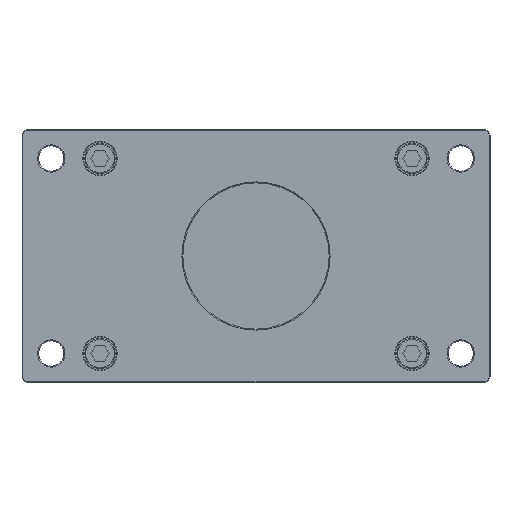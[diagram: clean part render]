
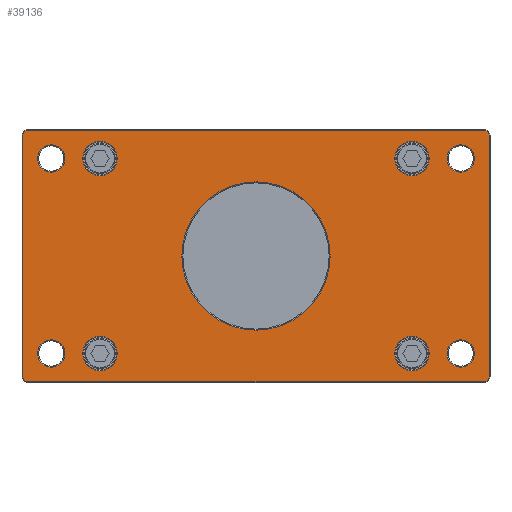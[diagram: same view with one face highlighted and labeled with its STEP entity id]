
A CAD part, front view. The second image highlights one B-rep face of the part: STEP entity #39136.
In plain terms, the highlighted planar face has unit normal (0, -1, 0) as drawn and (0, 1, 0) by its records, which use the part's own axes.
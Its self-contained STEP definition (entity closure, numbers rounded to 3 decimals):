
#37588=CARTESIAN_POINT('',(0.,9.,0.));
#37589=DIRECTION('',(0.,-1.,0.));
#37590=DIRECTION('',(1.,0.,0.));
#37591=AXIS2_PLACEMENT_3D('',#37588,#37589,#37590);
#37593=CARTESIAN_POINT('',(0.,9.,0.));
#37594=DIRECTION('',(0.,-1.,0.));
#37595=DIRECTION('',(-1.,0.,0.));
#37596=AXIS2_PLACEMENT_3D('',#37593,#37594,#37595);
#37598=CARTESIAN_POINT('',(-105.,9.,-50.));
#37599=DIRECTION('',(0.,-1.,0.));
#37600=DIRECTION('',(-1.,0.,0.));
#37601=AXIS2_PLACEMENT_3D('',#37598,#37599,#37600);
#37603=CARTESIAN_POINT('',(-105.,9.,-50.));
#37604=DIRECTION('',(0.,-1.,0.));
#37605=DIRECTION('',(1.,0.,0.));
#37606=AXIS2_PLACEMENT_3D('',#37603,#37604,#37605);
#37608=CARTESIAN_POINT('',(105.,9.,-50.));
#37609=DIRECTION('',(0.,-1.,0.));
#37610=DIRECTION('',(-1.,0.,0.));
#37611=AXIS2_PLACEMENT_3D('',#37608,#37609,#37610);
#37613=CARTESIAN_POINT('',(105.,9.,-50.));
#37614=DIRECTION('',(0.,-1.,0.));
#37615=DIRECTION('',(1.,0.,0.));
#37616=AXIS2_PLACEMENT_3D('',#37613,#37614,#37615);
#37618=CARTESIAN_POINT('',(105.,9.,50.));
#37619=DIRECTION('',(0.,-1.,0.));
#37620=DIRECTION('',(1.,0.,0.));
#37621=AXIS2_PLACEMENT_3D('',#37618,#37619,#37620);
#37623=CARTESIAN_POINT('',(105.,9.,50.));
#37624=DIRECTION('',(0.,-1.,0.));
#37625=DIRECTION('',(-1.,0.,0.));
#37626=AXIS2_PLACEMENT_3D('',#37623,#37624,#37625);
#37628=CARTESIAN_POINT('',(-105.,9.,50.));
#37629=DIRECTION('',(0.,-1.,0.));
#37630=DIRECTION('',(-1.,0.,0.));
#37631=AXIS2_PLACEMENT_3D('',#37628,#37629,#37630);
#37633=CARTESIAN_POINT('',(-105.,9.,50.));
#37634=DIRECTION('',(0.,-1.,0.));
#37635=DIRECTION('',(1.,0.,0.));
#37636=AXIS2_PLACEMENT_3D('',#37633,#37634,#37635);
#37638=CARTESIAN_POINT('',(-117.,9.,-62.));
#37639=DIRECTION('',(0.,1.,0.));
#37640=DIRECTION('',(0.,0.,-1.));
#37641=AXIS2_PLACEMENT_3D('',#37638,#37639,#37640);
#37643=DIRECTION('',(-1.,0.,0.));
#37644=VECTOR('',#37643,234.);
#37645=CARTESIAN_POINT('',(117.,9.,
-64.5));
#37646=LINE('',#37645,#37644);
#37647=CARTESIAN_POINT('',(117.,9.,-62.));
#37648=DIRECTION('',(0.,1.,0.));
#37649=DIRECTION('',(1.,0.,0.));
#37650=AXIS2_PLACEMENT_3D('',#37647,#37648,#37649);
#37652=DIRECTION('',(0.,0.,-1.));
#37653=VECTOR('',#37652,124.);
#37654=CARTESIAN_POINT('',(119.5,9.,62.));
#37655=LINE('',#37654,#37653);
#37656=CARTESIAN_POINT('',(117.,9.,62.));
#37657=DIRECTION('',(0.,1.,0.));
#37658=DIRECTION('',(0.,0.,1.));
#37659=AXIS2_PLACEMENT_3D('',#37656,#37657,#37658);
#37661=DIRECTION('',(1.,0.,0.));
#37662=VECTOR('',#37661,234.);
#37663=CARTESIAN_POINT('',(-117.,9.,
64.5));
#37664=LINE('',#37663,#37662);
#37665=CARTESIAN_POINT('',(-117.,9.,62.));
#37666=DIRECTION('',(0.,1.,0.));
#37667=DIRECTION('',(-1.,0.,0.));
#37668=AXIS2_PLACEMENT_3D('',#37665,#37666,#37667);
#37670=DIRECTION('',(0.,0.,1.));
#37671=VECTOR('',#37670,124.);
#37672=CARTESIAN_POINT('',(-119.5,9.,
-62.));
#37673=LINE('',#37672,#37671);
#37674=CARTESIAN_POINT('',(80.,9.,50.));
#37675=DIRECTION('',(0.,-1.,0.));
#37676=DIRECTION('',(1.,0.,0.));
#37677=AXIS2_PLACEMENT_3D('',#37674,#37675,#37676);
#37679=CARTESIAN_POINT('',(80.,9.,50.));
#37680=DIRECTION('',(0.,-1.,0.));
#37681=DIRECTION('',(-1.,0.,0.));
#37682=AXIS2_PLACEMENT_3D('',#37679,#37680,#37681);
#37684=CARTESIAN_POINT('',(-80.,9.,50.));
#37685=DIRECTION('',(0.,-1.,0.));
#37686=DIRECTION('',(1.,0.,0.));
#37687=AXIS2_PLACEMENT_3D('',#37684,#37685,#37686);
#37689=CARTESIAN_POINT('',(-80.,9.,50.));
#37690=DIRECTION('',(0.,-1.,0.));
#37691=DIRECTION('',(-1.,0.,0.));
#37692=AXIS2_PLACEMENT_3D('',#37689,#37690,#37691);
#37694=CARTESIAN_POINT('',(80.,9.,-50.));
#37695=DIRECTION('',(0.,-1.,0.));
#37696=DIRECTION('',(1.,0.,0.));
#37697=AXIS2_PLACEMENT_3D('',#37694,#37695,#37696);
#37699=CARTESIAN_POINT('',(80.,9.,-50.));
#37700=DIRECTION('',(0.,-1.,0.));
#37701=DIRECTION('',(-1.,0.,0.));
#37702=AXIS2_PLACEMENT_3D('',#37699,#37700,#37701);
#37704=CARTESIAN_POINT('',(-80.,9.,-50.));
#37705=DIRECTION('',(0.,-1.,0.));
#37706=DIRECTION('',(1.,0.,0.));
#37707=AXIS2_PLACEMENT_3D('',#37704,#37705,#37706);
#37709=CARTESIAN_POINT('',(-80.,9.,-50.));
#37710=DIRECTION('',(0.,-1.,0.));
#37711=DIRECTION('',(-1.,0.,0.));
#37712=AXIS2_PLACEMENT_3D('',#37709,#37710,#37711);
#38620=CARTESIAN_POINT('',(38.,9.,0.));
#38621=CARTESIAN_POINT('',(-38.,9.,0.));
#38622=VERTEX_POINT('',#38620);
#38623=VERTEX_POINT('',#38621);
#38636=CARTESIAN_POINT('',(-112.,9.,-50.));
#38637=CARTESIAN_POINT('',(-98.,9.,-50.));
#38638=VERTEX_POINT('',#38636);
#38639=VERTEX_POINT('',#38637);
#38644=CARTESIAN_POINT('',(98.,9.,-50.));
#38645=CARTESIAN_POINT('',(112.,9.,-50.));
#38646=VERTEX_POINT('',#38644);
#38647=VERTEX_POINT('',#38645);
#38652=CARTESIAN_POINT('',(112.,9.,50.));
#38653=CARTESIAN_POINT('',(98.,9.,50.));
#38654=VERTEX_POINT('',#38652);
#38655=VERTEX_POINT('',#38653);
#38660=CARTESIAN_POINT('',(-112.,9.,50.));
#38661=CARTESIAN_POINT('',(-98.,9.,50.));
#38662=VERTEX_POINT('',#38660);
#38663=VERTEX_POINT('',#38661);
#38732=CARTESIAN_POINT('',(-117.,9.,-64.5));
#38733=CARTESIAN_POINT('',(-119.5,9.,-62.));
#38734=VERTEX_POINT('',#38732);
#38735=VERTEX_POINT('',#38733);
#38740=CARTESIAN_POINT('',(-119.5,9.,
62.));
#38741=VERTEX_POINT('',#38740);
#38744=CARTESIAN_POINT('',(-117.,9.,64.5));
#38745=VERTEX_POINT('',#38744);
#38748=CARTESIAN_POINT('',(117.,9.,64.5));
#38749=VERTEX_POINT('',#38748);
#38752=CARTESIAN_POINT('',(119.5,9.,62.));
#38753=VERTEX_POINT('',#38752);
#38756=CARTESIAN_POINT('',(119.5,9.,
-62.));
#38757=VERTEX_POINT('',#38756);
#38760=CARTESIAN_POINT('',(117.,9.,-64.5));
#38761=VERTEX_POINT('',#38760);
#38780=CARTESIAN_POINT('',(88.8,9.,50.));
#38781=CARTESIAN_POINT('',(71.2,9.,50.));
#38782=VERTEX_POINT('',#38780);
#38783=VERTEX_POINT('',#38781);
#38804=CARTESIAN_POINT('',(-71.2,9.,50.));
#38805=CARTESIAN_POINT('',(-88.8,9.,50.));
#38806=VERTEX_POINT('',#38804);
#38807=VERTEX_POINT('',#38805);
#38820=CARTESIAN_POINT('',(88.8,9.,-50.));
#38821=CARTESIAN_POINT('',(71.2,9.,-50.));
#38822=VERTEX_POINT('',#38820);
#38823=VERTEX_POINT('',#38821);
#38828=CARTESIAN_POINT('',(-71.2,9.,-50.));
#38829=CARTESIAN_POINT('',(-88.8,9.,-50.));
#38830=VERTEX_POINT('',#38828);
#38831=VERTEX_POINT('',#38829);
#39060=CARTESIAN_POINT('',(0.,9.,0.));
#39061=DIRECTION('',(0.,1.,0.));
#39062=DIRECTION('',(1.,0.,0.));
#39063=AXIS2_PLACEMENT_3D('',#39060,#39061,#39062);
#39064=PLANE('',#39063);
#39066=ORIENTED_EDGE('',*,*,#39065,.F.);
#39068=ORIENTED_EDGE('',*,*,#39067,.F.);
#39070=ORIENTED_EDGE('',*,*,#39069,.F.);
#39072=ORIENTED_EDGE('',*,*,#39071,.F.);
#39074=ORIENTED_EDGE('',*,*,#39073,.F.);
#39076=ORIENTED_EDGE('',*,*,#39075,.F.);
#39078=ORIENTED_EDGE('',*,*,#39077,.F.);
#39080=ORIENTED_EDGE('',*,*,#39079,.F.);
#39081=EDGE_LOOP('',(#39066,#39068,#39070,#39072,#39074,#39076,#39078,#39080));
#39082=FACE_OUTER_BOUND('',#39081,.F.);
#39084=ORIENTED_EDGE('',*,*,#39083,.F.);
#39086=ORIENTED_EDGE('',*,*,#39085,.F.);
#39087=EDGE_LOOP('',(#39084,#39086));
#39088=FACE_BOUND('',#39087,.F.);
#39090=ORIENTED_EDGE('',*,*,#39089,.F.);
#39092=ORIENTED_EDGE('',*,*,#39091,.F.);
#39093=EDGE_LOOP('',(#39090,#39092));
#39094=FACE_BOUND('',#39093,.F.);
#39096=ORIENTED_EDGE('',*,*,#39095,.F.);
#39098=ORIENTED_EDGE('',*,*,#39097,.F.);
#39099=EDGE_LOOP('',(#39096,#39098));
#39100=FACE_BOUND('',#39099,.F.);
#39102=ORIENTED_EDGE('',*,*,#39101,.F.);
#39104=ORIENTED_EDGE('',*,*,#39103,.F.);
#39105=EDGE_LOOP('',(#39102,#39104));
#39106=FACE_BOUND('',#39105,.F.);
#39108=ORIENTED_EDGE('',*,*,#39107,.F.);
#39109=ORIENTED_EDGE('',*,*,#39050,.F.);
#39110=EDGE_LOOP('',(#39108,#39109));
#39111=FACE_BOUND('',#39110,.F.);
#39113=ORIENTED_EDGE('',*,*,#39112,.F.);
#39115=ORIENTED_EDGE('',*,*,#39114,.F.);
#39116=EDGE_LOOP('',(#39113,#39115));
#39117=FACE_BOUND('',#39116,.F.);
#39119=ORIENTED_EDGE('',*,*,#39118,.F.);
#39121=ORIENTED_EDGE('',*,*,#39120,.F.);
#39122=EDGE_LOOP('',(#39119,#39121));
#39123=FACE_BOUND('',#39122,.F.);
#39125=ORIENTED_EDGE('',*,*,#39124,.F.);
#39127=ORIENTED_EDGE('',*,*,#39126,.F.);
#39128=EDGE_LOOP('',(#39125,#39127));
#39129=FACE_BOUND('',#39128,.F.);
#39131=ORIENTED_EDGE('',*,*,#39130,.F.);
#39133=ORIENTED_EDGE('',*,*,#39132,.F.);
#39134=EDGE_LOOP('',(#39131,#39133));
#39135=FACE_BOUND('',#39134,.F.);
#39136=ADVANCED_FACE('',(#39082,#39088,#39094,#39100,#39106,#39111,#39117,
#39123,#39129,#39135),#39064,.T.);
#37592=CIRCLE('',#37591,38.);
#37597=CIRCLE('',#37596,38.);
#37602=CIRCLE('',#37601,7.);
#37607=CIRCLE('',#37606,7.);
#37612=CIRCLE('',#37611,7.);
#37617=CIRCLE('',#37616,7.);
#37622=CIRCLE('',#37621,7.);
#37627=CIRCLE('',#37626,7.);
#37632=CIRCLE('',#37631,7.);
#37637=CIRCLE('',#37636,7.);
#37642=CIRCLE('',#37641,2.5);
#37651=CIRCLE('',#37650,2.5);
#37660=CIRCLE('',#37659,2.5);
#37669=CIRCLE('',#37668,2.5);
#37678=CIRCLE('',#37677,8.8);
#37683=CIRCLE('',#37682,8.8);
#37688=CIRCLE('',#37687,8.8);
#37693=CIRCLE('',#37692,8.8);
#37698=CIRCLE('',#37697,8.8);
#37703=CIRCLE('',#37702,8.8);
#37708=CIRCLE('',#37707,8.8);
#37713=CIRCLE('',#37712,8.8);
#39050=EDGE_CURVE('',#38623,#38622,#37597,.T.);
#39065=EDGE_CURVE('',#38734,#38735,#37642,.T.);
#39067=EDGE_CURVE('',#38761,#38734,#37646,.T.);
#39069=EDGE_CURVE('',#38757,#38761,#37651,.T.);
#39071=EDGE_CURVE('',#38753,#38757,#37655,.T.);
#39073=EDGE_CURVE('',#38749,#38753,#37660,.T.);
#39075=EDGE_CURVE('',#38745,#38749,#37664,.T.);
#39077=EDGE_CURVE('',#38741,#38745,#37669,.T.);
#39079=EDGE_CURVE('',#38735,#38741,#37673,.T.);
#39083=EDGE_CURVE('',#38638,#38639,#37602,.T.);
#39085=EDGE_CURVE('',#38639,#38638,#37607,.T.);
#39089=EDGE_CURVE('',#38646,#38647,#37612,.T.);
#39091=EDGE_CURVE('',#38647,#38646,#37617,.T.);
#39095=EDGE_CURVE('',#38654,#38655,#37622,.T.);
#39097=EDGE_CURVE('',#38655,#38654,#37627,.T.);
#39101=EDGE_CURVE('',#38662,#38663,#37632,.T.);
#39103=EDGE_CURVE('',#38663,#38662,#37637,.T.);
#39107=EDGE_CURVE('',#38622,#38623,#37592,.T.);
#39112=EDGE_CURVE('',#38782,#38783,#37678,.T.);
#39114=EDGE_CURVE('',#38783,#38782,#37683,.T.);
#39118=EDGE_CURVE('',#38806,#38807,#37688,.T.);
#39120=EDGE_CURVE('',#38807,#38806,#37693,.T.);
#39124=EDGE_CURVE('',#38822,#38823,#37698,.T.);
#39126=EDGE_CURVE('',#38823,#38822,#37703,.T.);
#39130=EDGE_CURVE('',#38830,#38831,#37708,.T.);
#39132=EDGE_CURVE('',#38831,#38830,#37713,.T.);
